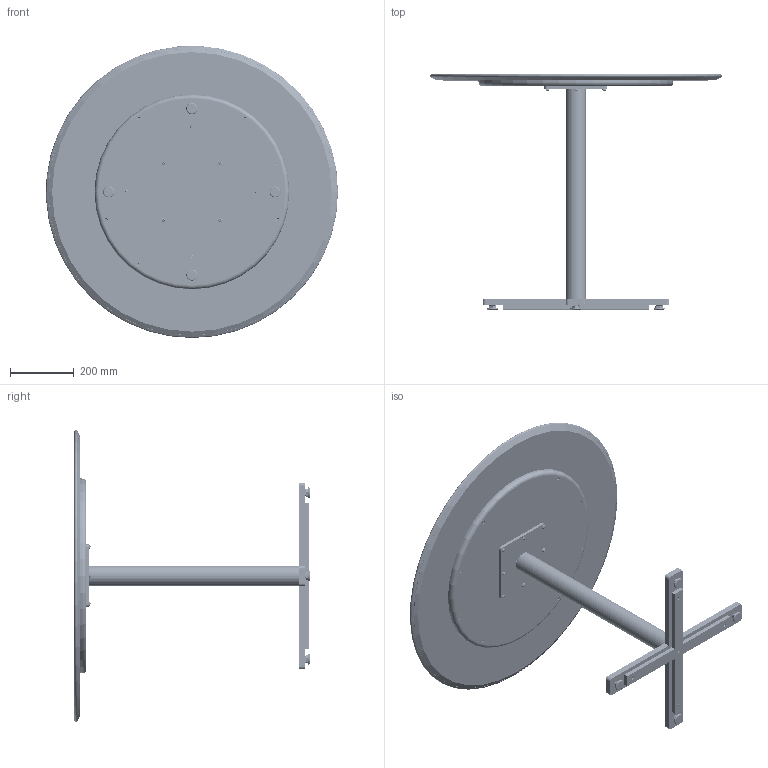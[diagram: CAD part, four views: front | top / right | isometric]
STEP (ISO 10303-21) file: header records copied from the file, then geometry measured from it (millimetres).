
FILE_DESCRIPTION(/* description */ ('CAPRI MEETING TABLE, 36'''' DIA X 29''''H '),/* implementation_level */ '2;1');
FILE_NAME(/* name */ '3139.stp',/* time_stamp */ '2025-07-03T13:24:13-04:00',/* author */ ('emendoza'),/* organization */ (''),/* preprocessor_version */ 'ST-DEVELOPER v20',/* originating_system */ 'Autodesk Inventor 2025',/* authorisation */ '');
FILE_SCHEMA (('AUTOMOTIVE_DESIGN { 1 0 10303 214 3 1 1 }'));
Products named in the file (39): 3139; 3138-010; 3138-011; 3138-011_1; 3138-012 ; 3138-013; HD01-036; MEFA300 ; 3138-019; 3138-014 ; 3138-014 _1; 3138-015; 3138-016; 3138-016_1; HD01-127; HD01-167; PA013B; 3138-020; 3138-020_1; 3138-017; 3138-018; 3137-030; 3137-031; FA151; 95170-OS; 3137-040; 3137-041 ; 3137-042; 3137-044; 3137-045; 3137-046; 3137-047; 3137-043; 3137-043_1; 3137-043_2; 3137-043_3; 3137-043_4; 3137-043_5; FA012
Assembly tree (82 placements, depth 6):
  3139
    3138-010
      3138-011
        3138-011_1
        3138-012 
        3138-013  x2
        HD01-036  x5
        MEFA300   x4
      3138-019
      3138-014 
        3138-014 _1
        3138-015
        3138-016
        3138-016_1
      HD01-127  x6
      HD01-167  x5
      PA013B  x4
      3138-020
        3138-020_1
        3138-017
        3138-018  x2
    3137-030
      3137-031
      FA151  x8
    95170-OS  x8
    3137-040
      3137-041 
        3137-042
          3137-044
            3137-045
            3137-046
            3137-047
          3137-043
          3137-043_1
          3137-043_2
          3137-043_3
          3137-043_4
          3137-043_5
    FA012  x10
Bounding box: 913.83 x 736.6 x 913.77 mm (x, y, z)
Volume: 19865450 mm3; surface area: 5245032.1 mm2
Topology: 107 solids, 107 shells, 4551 faces, 11847 edges, 7840 vertices
Faces by surface type: cylinder 1963, plane 1537, cone 837, bspline 136, torus 70, sphere 8
Full cylindrical faces by diameter (mm): 2.812 x90, 3.489 x10, 4.166 x90, 4.7 x423, 4.762 x10, 5.159 x6, 6.104 x20, 6.35 x432, 6.747 x1, 7.144 x22, 7.747 x13, 7.925 x4, 7.938 x41, 8.433 x10, 9.525 x15, 11.112 x12, 12.497 x8, 13.494 x1, 19.05 x5, 19.844 x8, 22.225 x2, 25.4 x3, 57.404 x1, 63.5 x1, 76.2 x1, 609.6 x1, 889 x1, 898.525 x3
Entity records: 53647 total; most frequent: CARTESIAN_POINT 25846, DIRECTION 5459, ORIENTED_EDGE 5376, EDGE_CURVE 2688, AXIS2_PLACEMENT_3D 2029, VERTEX_POINT 1779, LINE 1401, VECTOR 1401
